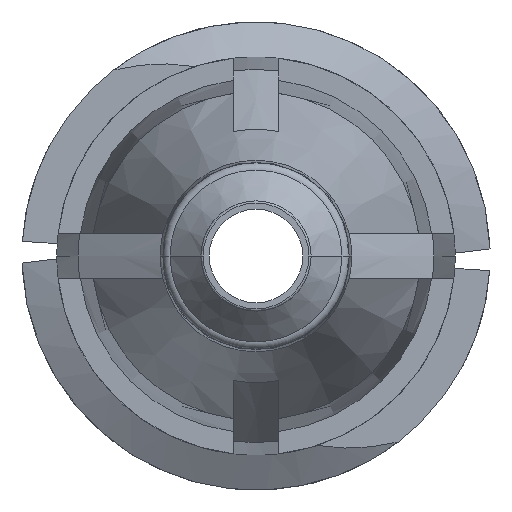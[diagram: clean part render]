
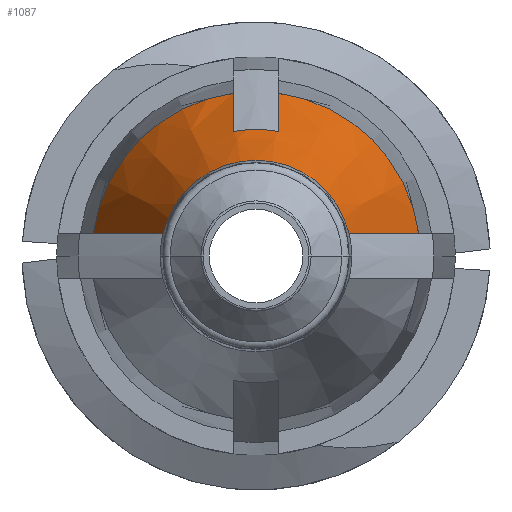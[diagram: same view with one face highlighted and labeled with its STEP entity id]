
A CAD part, front view. The second image highlights one B-rep face of the part: STEP entity #1087.
In plain terms, the highlighted conical face has half-angle 20 degrees and reference radius 2.745 mm.
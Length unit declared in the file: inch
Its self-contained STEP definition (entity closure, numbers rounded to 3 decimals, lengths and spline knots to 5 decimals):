
#168 = EDGE_CURVE ( 'NONE', #1213, #563, #2958, .T. ) ;
#222 = DIRECTION ( 'NONE',  ( 0., 1., 0. ) ) ;
#273 = ORIENTED_EDGE ( 'NONE', *, *, #3047, .F. ) ;
#289 = EDGE_CURVE ( 'NONE', #3306, #2677, #2857, .T. ) ;
#344 = CONICAL_SURFACE ( 'NONE', #2810, 0.10808, 0.349 ) ;
#349 = EDGE_CURVE ( 'NONE', #3007, #1752, #3134, .T. ) ;
#465 = ORIENTED_EDGE ( 'NONE', *, *, #2141, .F. ) ;
#467 = CARTESIAN_POINT ( 'NONE',  ( -0.06119, -0.52985, 0.015 ) ) ;
#477 = FACE_OUTER_BOUND ( 'NONE', #2813, .T. ) ;
#509 = CARTESIAN_POINT ( 'NONE',  ( -0.015, -0.45131, 0.09036 ) ) ;
#528 = CARTESIAN_POINT ( 'NONE',  ( 0.015, -0.47395, 0.08198 ) ) ;
#563 = VERTEX_POINT ( 'NONE', #2740 ) ;
#589 = DIRECTION ( 'NONE',  ( 0., 1., 0. ) ) ;
#612 = CARTESIAN_POINT ( 'NONE',  ( -0.015, -0.406, 0.10703 ) ) ;
#690 = AXIS2_PLACEMENT_3D ( 'NONE', #2767, #3104, #715 ) ;
#715 = DIRECTION ( 'NONE',  ( -1., 0., 0. ) ) ;
#897 = DIRECTION ( 'NONE',  ( -1., 0., 0. ) ) ;
#969 = CARTESIAN_POINT ( 'NONE',  ( -0.015, -0.47395, 0.08198 ) ) ;
#982 = CARTESIAN_POINT ( 'NONE',  ( -0.015, -0.42866, 0.0987 ) ) ;
#1049 = CARTESIAN_POINT ( 'NONE',  ( 0., -0.406, 0. ) ) ;
#1087 = ADVANCED_FACE ( 'NONE', ( #477 ), #344, .T. ) ;
#1112 = ORIENTED_EDGE ( 'NONE', *, *, #349, .F. ) ;
#1209 = ORIENTED_EDGE ( 'NONE', *, *, #3048, .T. ) ;
#1213 = VERTEX_POINT ( 'NONE', #2465 ) ;
#1304 = CARTESIAN_POINT ( 'NONE',  ( -0.015, -0.406, 0.10703 ) ) ;
#1474 = AXIS2_PLACEMENT_3D ( 'NONE', #1884, #589, #1845 ) ;
#1499 = ORIENTED_EDGE ( 'NONE', *, *, #168, .F. ) ;
#1514 = CARTESIAN_POINT ( 'NONE',  ( 0.06119, -0.52985, 0.015 ) ) ;
#1578 = CARTESIAN_POINT ( 'NONE',  ( -0.06119, -0.52985, 0.015 ) ) ;
#1630 = CARTESIAN_POINT ( 'NONE',  ( 0.10703, -0.406, 0.015 ) ) ;
#1649 = AXIS2_PLACEMENT_3D ( 'NONE', #2211, #3033, #3260 ) ;
#1741 = ORIENTED_EDGE ( 'NONE', *, *, #2446, .T. ) ;
#1752 = VERTEX_POINT ( 'NONE', #2002 ) ;
#1768 = CARTESIAN_POINT ( 'NONE',  ( 0.015, -0.406, 0.10703 ) ) ;
#1845 = DIRECTION ( 'NONE',  ( -1., 0., 0. ) ) ;
#1884 = CARTESIAN_POINT ( 'NONE',  ( 0., -0.406, 0. ) ) ;
#1998 = CIRCLE ( 'NONE', #690, 0.063 ) ;
#2002 = CARTESIAN_POINT ( 'NONE',  ( 0.015, -0.47395, 0.08198 ) ) ;
#2011 = CARTESIAN_POINT ( 'NONE',  ( -0.10703, -0.406, 0.015 ) ) ;
#2013 = CARTESIAN_POINT ( 'NONE',  ( 0.015, -0.45131, 0.09036 ) ) ;
#2054 = ORIENTED_EDGE ( 'NONE', *, *, #2935, .F. ) ;
#2141 = EDGE_CURVE ( 'NONE', #3135, #3306, #2722, .T. ) ;
#2211 = CARTESIAN_POINT ( 'NONE',  ( 0., -0.47395, 0. ) ) ;
#2258 = DIRECTION ( 'NONE',  ( 0., 1., 0. ) ) ;
#2293 = B_SPLINE_CURVE_WITH_KNOTS ( 'NONE', 3,
 ( #1514, #2572, #2358, #1630 ),
 .UNSPECIFIED., .F., .F.,
 ( 4, 4 ),
 ( 0.00282, 0.00617 ),
 .UNSPECIFIED. ) ;
#2358 = CARTESIAN_POINT ( 'NONE',  ( 0.09185, -0.44732, 0.015 ) ) ;
#2446 = EDGE_CURVE ( 'NONE', #3135, #3222, #1998, .T. ) ;
#2465 = CARTESIAN_POINT ( 'NONE',  ( 0.015, -0.406, 0.10703 ) ) ;
#2536 = CARTESIAN_POINT ( 'NONE',  ( 0., -0.406, 0. ) ) ;
#2539 = B_SPLINE_CURVE_WITH_KNOTS ( 'NONE', 3,
 ( #1304, #982, #509, #3118 ),
 .UNSPECIFIED., .F., .F.,
 ( 4, 4 ),
 ( 0.00343, 0.00527 ),
 .UNSPECIFIED. ) ;
#2572 = CARTESIAN_POINT ( 'NONE',  ( 0.07664, -0.48863, 0.015 ) ) ;
#2595 = CARTESIAN_POINT ( 'NONE',  ( -0.09185, -0.44732, 0.015 ) ) ;
#2632 = DIRECTION ( 'NONE',  ( -1., 0., 0. ) ) ;
#2677 = VERTEX_POINT ( 'NONE', #612 ) ;
#2722 = B_SPLINE_CURVE_WITH_KNOTS ( 'NONE', 3,
 ( #467, #2834, #2595, #3093 ),
 .UNSPECIFIED., .F., .F.,
 ( 4, 4 ),
 ( 0.00282, 0.00617 ),
 .UNSPECIFIED. ) ;
#2740 = CARTESIAN_POINT ( 'NONE',  ( 0.10703, -0.406, 0.015 ) ) ;
#2756 = AXIS2_PLACEMENT_3D ( 'NONE', #2536, #2258, #897 ) ;
#2765 = ORIENTED_EDGE ( 'NONE', *, *, #289, .F. ) ;
#2767 = CARTESIAN_POINT ( 'NONE',  ( 0., -0.52985, 0. ) ) ;
#2810 = AXIS2_PLACEMENT_3D ( 'NONE', #1049, #222, #2632 ) ;
#2813 = EDGE_LOOP ( 'NONE', ( #465, #1741, #1209, #1499, #273, #1112, #2054, #2765 ) ) ;
#2834 = CARTESIAN_POINT ( 'NONE',  ( -0.07664, -0.48863, 0.015 ) ) ;
#2857 = CIRCLE ( 'NONE', #2756, 0.10808 ) ;
#2935 = EDGE_CURVE ( 'NONE', #2677, #3007, #2539, .T. ) ;
#2958 = CIRCLE ( 'NONE', #1474, 0.10808 ) ;
#2979 = CARTESIAN_POINT ( 'NONE',  ( 0.06119, -0.52985, 0.015 ) ) ;
#3007 = VERTEX_POINT ( 'NONE', #969 ) ;
#3033 = DIRECTION ( 'NONE',  ( 0., 1., 0. ) ) ;
#3047 = EDGE_CURVE ( 'NONE', #1752, #1213, #3401, .T. ) ;
#3048 = EDGE_CURVE ( 'NONE', #3222, #563, #2293, .T. ) ;
#3069 = CARTESIAN_POINT ( 'NONE',  ( 0.015, -0.42866, 0.0987 ) ) ;
#3093 = CARTESIAN_POINT ( 'NONE',  ( -0.10703, -0.406, 0.015 ) ) ;
#3104 = DIRECTION ( 'NONE',  ( 0., 1., 0. ) ) ;
#3118 = CARTESIAN_POINT ( 'NONE',  ( -0.015, -0.47395, 0.08198 ) ) ;
#3134 = CIRCLE ( 'NONE', #1649, 0.08335 ) ;
#3135 = VERTEX_POINT ( 'NONE', #1578 ) ;
#3222 = VERTEX_POINT ( 'NONE', #2979 ) ;
#3260 = DIRECTION ( 'NONE',  ( 1., 0., 0. ) ) ;
#3306 = VERTEX_POINT ( 'NONE', #2011 ) ;
#3401 = B_SPLINE_CURVE_WITH_KNOTS ( 'NONE', 3,
 ( #528, #2013, #3069, #1768 ),
 .UNSPECIFIED., .F., .F.,
 ( 4, 4 ),
 ( 0.00247, 0.00431 ),
 .UNSPECIFIED. ) ;
